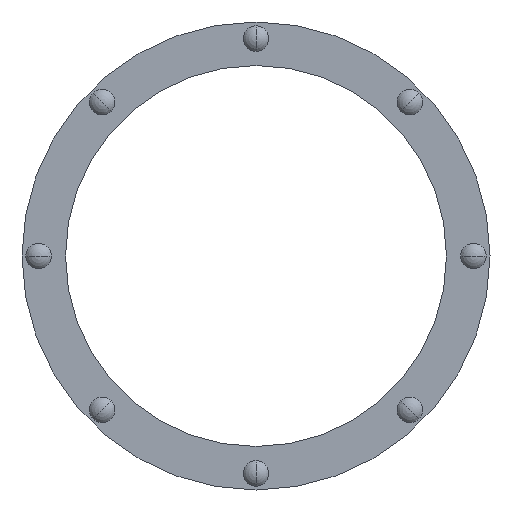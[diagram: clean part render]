
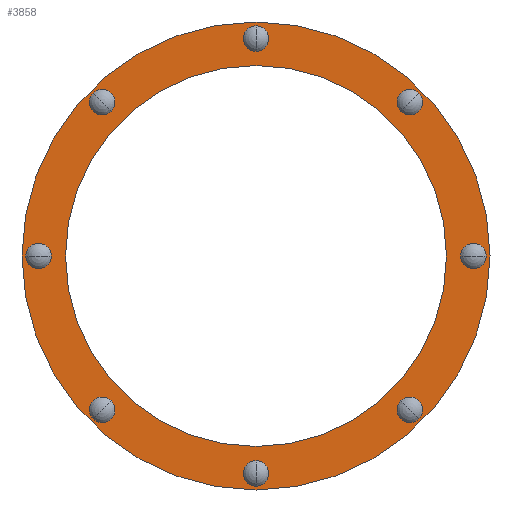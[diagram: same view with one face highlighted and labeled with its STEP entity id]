
A CAD part, front view. The second image highlights one B-rep face of the part: STEP entity #3858.
In plain terms, the highlighted planar face has unit normal (0, -1, 0).
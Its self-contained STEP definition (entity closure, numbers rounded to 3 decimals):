
#1223=CARTESIAN_POINT('',(-153.973,-92.,153.973));
#1224=DIRECTION('',(0.,1.,0.));
#1225=DIRECTION('',(-0.707,0.,0.707));
#1226=AXIS2_PLACEMENT_3D('',#1223,#1224,#1225);
#1228=CARTESIAN_POINT('',(-153.973,-92.,153.973));
#1229=DIRECTION('',(0.,1.,0.));
#1230=DIRECTION('',(0.707,0.,-0.707));
#1231=AXIS2_PLACEMENT_3D('',#1228,#1229,#1230);
#1233=CARTESIAN_POINT('',(0.,-92.,217.75));
#1234=DIRECTION('',(0.,1.,0.));
#1235=DIRECTION('',(0.,0.,1.));
#1236=AXIS2_PLACEMENT_3D('',#1233,#1234,#1235);
#1238=CARTESIAN_POINT('',(0.,-92.,217.75));
#1239=DIRECTION('',(0.,1.,0.));
#1240=DIRECTION('',(0.,0.,-1.));
#1241=AXIS2_PLACEMENT_3D('',#1238,#1239,#1240);
#1243=CARTESIAN_POINT('',(153.973,-92.,153.973));
#1244=DIRECTION('',(0.,1.,0.));
#1245=DIRECTION('',(0.707,0.,0.707));
#1246=AXIS2_PLACEMENT_3D('',#1243,#1244,#1245);
#1248=CARTESIAN_POINT('',(153.973,-92.,153.973));
#1249=DIRECTION('',(0.,1.,0.));
#1250=DIRECTION('',(-0.707,0.,-0.707));
#1251=AXIS2_PLACEMENT_3D('',#1248,#1249,#1250);
#1253=CARTESIAN_POINT('',(217.75,-92.,0.));
#1254=DIRECTION('',(0.,1.,0.));
#1255=DIRECTION('',(1.,0.,0.));
#1256=AXIS2_PLACEMENT_3D('',#1253,#1254,#1255);
#1258=CARTESIAN_POINT('',(217.75,-92.,0.));
#1259=DIRECTION('',(0.,1.,0.));
#1260=DIRECTION('',(-1.,0.,0.));
#1261=AXIS2_PLACEMENT_3D('',#1258,#1259,#1260);
#1263=CARTESIAN_POINT('',(153.973,-92.,-153.973));
#1264=DIRECTION('',(0.,1.,0.));
#1265=DIRECTION('',(0.707,0.,-0.707));
#1266=AXIS2_PLACEMENT_3D('',#1263,#1264,#1265);
#1268=CARTESIAN_POINT('',(153.973,-92.,-153.973));
#1269=DIRECTION('',(0.,1.,0.));
#1270=DIRECTION('',(-0.707,0.,0.707));
#1271=AXIS2_PLACEMENT_3D('',#1268,#1269,#1270);
#1273=CARTESIAN_POINT('',(0.,-92.,-217.75));
#1274=DIRECTION('',(0.,1.,0.));
#1275=DIRECTION('',(0.,0.,-1.));
#1276=AXIS2_PLACEMENT_3D('',#1273,#1274,#1275);
#1278=CARTESIAN_POINT('',(0.,-92.,-217.75));
#1279=DIRECTION('',(0.,1.,0.));
#1280=DIRECTION('',(0.,0.,1.));
#1281=AXIS2_PLACEMENT_3D('',#1278,#1279,#1280);
#1283=CARTESIAN_POINT('',(-153.973,-92.,-153.973));
#1284=DIRECTION('',(0.,1.,0.));
#1285=DIRECTION('',(-0.707,0.,-0.707));
#1286=AXIS2_PLACEMENT_3D('',#1283,#1284,#1285);
#1288=CARTESIAN_POINT('',(-153.973,-92.,-153.973));
#1289=DIRECTION('',(0.,1.,0.));
#1290=DIRECTION('',(0.707,0.,0.707));
#1291=AXIS2_PLACEMENT_3D('',#1288,#1289,#1290);
#1293=CARTESIAN_POINT('',(-217.75,-92.,0.));
#1294=DIRECTION('',(0.,1.,0.));
#1295=DIRECTION('',(-1.,0.,0.));
#1296=AXIS2_PLACEMENT_3D('',#1293,#1294,#1295);
#1298=CARTESIAN_POINT('',(-217.75,-92.,0.));
#1299=DIRECTION('',(0.,1.,0.));
#1300=DIRECTION('',(1.,0.,0.));
#1301=AXIS2_PLACEMENT_3D('',#1298,#1299,#1300);
#1303=CARTESIAN_POINT('',(0.,-92.,0.));
#1304=DIRECTION('',(0.,1.,0.));
#1305=DIRECTION('',(-0.5,0.,0.866));
#1306=AXIS2_PLACEMENT_3D('',#1303,#1304,#1305);
#1308=CARTESIAN_POINT('',(0.,-92.,0.));
#1309=DIRECTION('',(0.,1.,0.));
#1310=DIRECTION('',(-0.866,0.,0.5));
#1311=AXIS2_PLACEMENT_3D('',#1308,#1309,#1310);
#1321=CARTESIAN_POINT('',(0.,-92.,0.));
#1322=DIRECTION('',(0.,1.,0.));
#1323=DIRECTION('',(-0.5,0.,0.866));
#1324=AXIS2_PLACEMENT_3D('',#1321,#1322,#1323);
#1326=CARTESIAN_POINT('',(0.,-92.,0.));
#1327=DIRECTION('',(0.,1.,0.));
#1328=DIRECTION('',(-0.866,0.,0.5));
#1329=AXIS2_PLACEMENT_3D('',#1326,#1327,#1328);
#2712=CARTESIAN_POINT('',(-230.5,-92.,0.));
#2713=CARTESIAN_POINT('',(-205.,-92.,0.));
#2714=VERTEX_POINT('',#2712);
#2715=VERTEX_POINT('',#2713);
#2770=CARTESIAN_POINT('',(-162.988,-92.,-162.988));
#2771=CARTESIAN_POINT('',(-144.957,-92.,-144.957));
#2772=VERTEX_POINT('',#2770);
#2773=VERTEX_POINT('',#2771);
#2828=CARTESIAN_POINT('',(0.,-92.,-230.5));
#2829=CARTESIAN_POINT('',(0.,-92.,-205.));
#2830=VERTEX_POINT('',#2828);
#2831=VERTEX_POINT('',#2829);
#2886=CARTESIAN_POINT('',(162.988,-92.,-162.988));
#2887=CARTESIAN_POINT('',(144.957,-92.,-144.957));
#2888=VERTEX_POINT('',#2886);
#2889=VERTEX_POINT('',#2887);
#2944=CARTESIAN_POINT('',(230.5,-92.,0.));
#2945=CARTESIAN_POINT('',(205.,-92.,0.));
#2946=VERTEX_POINT('',#2944);
#2947=VERTEX_POINT('',#2945);
#3002=CARTESIAN_POINT('',(162.988,-92.,162.988));
#3003=CARTESIAN_POINT('',(144.957,-92.,144.957));
#3004=VERTEX_POINT('',#3002);
#3005=VERTEX_POINT('',#3003);
#3060=CARTESIAN_POINT('',(0.,-92.,230.5));
#3061=CARTESIAN_POINT('',(0.,-92.,205.));
#3062=VERTEX_POINT('',#3060);
#3063=VERTEX_POINT('',#3061);
#3118=CARTESIAN_POINT('',(-162.988,-92.,162.988));
#3119=CARTESIAN_POINT('',(-144.957,-92.,144.957));
#3120=VERTEX_POINT('',#3118);
#3121=VERTEX_POINT('',#3119);
#3134=CARTESIAN_POINT('',(-202.953,-92.,117.175));
#3135=VERTEX_POINT('',#3134);
#3136=CARTESIAN_POINT('',(-165.194,-92.,95.375));
#3138=VERTEX_POINT('',#3136);
#3162=CARTESIAN_POINT('',(-117.175,-92.,202.953));
#3163=VERTEX_POINT('',#3162);
#3164=CARTESIAN_POINT('',(-95.375,-92.,165.194));
#3166=VERTEX_POINT('',#3164);
#3795=CARTESIAN_POINT('',(0.,-92.,0.));
#3796=DIRECTION('',(0.,1.,0.));
#3797=DIRECTION('',(0.866,0.,0.5));
#3798=AXIS2_PLACEMENT_3D('',#3795,#3796,#3797);
#3799=PLANE('',#3798);
#3800=ORIENTED_EDGE('',*,*,#3774,.T.);
#3801=ORIENTED_EDGE('',*,*,#3790,.T.);
#3802=EDGE_LOOP('',(#3800,#3801));
#3803=FACE_OUTER_BOUND('',#3802,.F.);
#3805=ORIENTED_EDGE('',*,*,#3804,.F.);
#3807=ORIENTED_EDGE('',*,*,#3806,.F.);
#3808=EDGE_LOOP('',(#3805,#3807));
#3809=FACE_BOUND('',#3808,.F.);
#3811=ORIENTED_EDGE('',*,*,#3810,.F.);
#3813=ORIENTED_EDGE('',*,*,#3812,.F.);
#3814=EDGE_LOOP('',(#3811,#3813));
#3815=FACE_BOUND('',#3814,.F.);
#3817=ORIENTED_EDGE('',*,*,#3816,.F.);
#3819=ORIENTED_EDGE('',*,*,#3818,.F.);
#3820=EDGE_LOOP('',(#3817,#3819));
#3821=FACE_BOUND('',#3820,.F.);
#3823=ORIENTED_EDGE('',*,*,#3822,.F.);
#3825=ORIENTED_EDGE('',*,*,#3824,.F.);
#3826=EDGE_LOOP('',(#3823,#3825));
#3827=FACE_BOUND('',#3826,.F.);
#3829=ORIENTED_EDGE('',*,*,#3828,.F.);
#3831=ORIENTED_EDGE('',*,*,#3830,.F.);
#3832=EDGE_LOOP('',(#3829,#3831));
#3833=FACE_BOUND('',#3832,.F.);
#3835=ORIENTED_EDGE('',*,*,#3834,.F.);
#3837=ORIENTED_EDGE('',*,*,#3836,.F.);
#3838=EDGE_LOOP('',(#3835,#3837));
#3839=FACE_BOUND('',#3838,.F.);
#3841=ORIENTED_EDGE('',*,*,#3840,.F.);
#3843=ORIENTED_EDGE('',*,*,#3842,.F.);
#3844=EDGE_LOOP('',(#3841,#3843));
#3845=FACE_BOUND('',#3844,.F.);
#3847=ORIENTED_EDGE('',*,*,#3846,.F.);
#3849=ORIENTED_EDGE('',*,*,#3848,.F.);
#3850=EDGE_LOOP('',(#3847,#3849));
#3851=FACE_BOUND('',#3850,.F.);
#3853=ORIENTED_EDGE('',*,*,#3852,.F.);
#3855=ORIENTED_EDGE('',*,*,#3854,.F.);
#3856=EDGE_LOOP('',(#3853,#3855));
#3857=FACE_BOUND('',#3856,.F.);
#3858=ADVANCED_FACE('',(#3803,#3809,#3815,#3821,#3827,#3833,#3839,#3845,#3851,
#3857),#3799,.F.);
#1227=CIRCLE('',#1226,12.75);
#1232=CIRCLE('',#1231,12.75);
#1237=CIRCLE('',#1236,12.75);
#1242=CIRCLE('',#1241,12.75);
#1247=CIRCLE('',#1246,12.75);
#1252=CIRCLE('',#1251,12.75);
#1257=CIRCLE('',#1256,12.75);
#1262=CIRCLE('',#1261,12.75);
#1267=CIRCLE('',#1266,12.75);
#1272=CIRCLE('',#1271,12.75);
#1277=CIRCLE('',#1276,12.75);
#1282=CIRCLE('',#1281,12.75);
#1287=CIRCLE('',#1286,12.75);
#1292=CIRCLE('',#1291,12.75);
#1297=CIRCLE('',#1296,12.75);
#1302=CIRCLE('',#1301,12.75);
#1307=CIRCLE('',#1306,234.35);
#1312=CIRCLE('',#1311,234.35);
#1325=CIRCLE('',#1324,190.75);
#1330=CIRCLE('',#1329,190.75);
#3774=EDGE_CURVE('',#3163,#3135,#1307,.T.);
#3790=EDGE_CURVE('',#3135,#3163,#1312,.T.);
#3804=EDGE_CURVE('',#3120,#3121,#1227,.T.);
#3806=EDGE_CURVE('',#3121,#3120,#1232,.T.);
#3810=EDGE_CURVE('',#3062,#3063,#1237,.T.);
#3812=EDGE_CURVE('',#3063,#3062,#1242,.T.);
#3816=EDGE_CURVE('',#3004,#3005,#1247,.T.);
#3818=EDGE_CURVE('',#3005,#3004,#1252,.T.);
#3822=EDGE_CURVE('',#2946,#2947,#1257,.T.);
#3824=EDGE_CURVE('',#2947,#2946,#1262,.T.);
#3828=EDGE_CURVE('',#2888,#2889,#1267,.T.);
#3830=EDGE_CURVE('',#2889,#2888,#1272,.T.);
#3834=EDGE_CURVE('',#2830,#2831,#1277,.T.);
#3836=EDGE_CURVE('',#2831,#2830,#1282,.T.);
#3840=EDGE_CURVE('',#2772,#2773,#1287,.T.);
#3842=EDGE_CURVE('',#2773,#2772,#1292,.T.);
#3846=EDGE_CURVE('',#2714,#2715,#1297,.T.);
#3848=EDGE_CURVE('',#2715,#2714,#1302,.T.);
#3852=EDGE_CURVE('',#3166,#3138,#1325,.T.);
#3854=EDGE_CURVE('',#3138,#3166,#1330,.T.);
